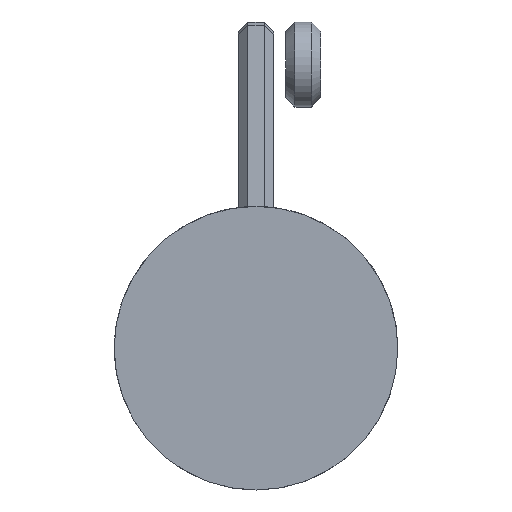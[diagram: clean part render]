
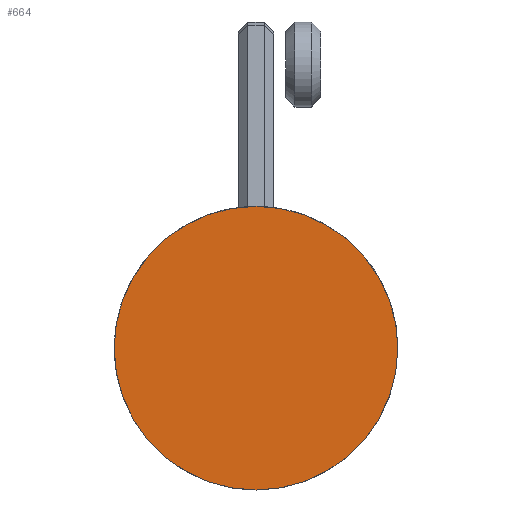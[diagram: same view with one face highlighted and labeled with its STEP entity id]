
A CAD part, front view. The second image highlights one B-rep face of the part: STEP entity #664.
In plain terms, the highlighted planar face has unit normal (0, -1, 0).
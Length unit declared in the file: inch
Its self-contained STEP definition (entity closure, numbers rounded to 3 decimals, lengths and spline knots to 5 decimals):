
#644=CARTESIAN_POINT('',(0.0,-3.5,3.0));
#645=VERTEX_POINT('',#644);
#646=CARTESIAN_POINT('',(0.0,-3.5,0.0));
#647=DIRECTION('',(0.0,1.0,0.0));
#648=DIRECTION('',(0.0,0.0,1.0));
#649=AXIS2_PLACEMENT_3D('',#646,#647,#648);
#650=CIRCLE('',#649,3.0);
#651=EDGE_CURVE('',#645,#645,#650,.T.);
#656=CARTESIAN_POINT('',(-3.0,-3.5,0.0));
#657=DIRECTION('',(0.0,-1.0,0.0));
#658=DIRECTION('',(0.0,0.0,-1.0));
#659=AXIS2_PLACEMENT_3D('',#656,#657,#658);
#660=PLANE('',#659);
#661=ORIENTED_EDGE('',*,*,#651,.F.);
#662=EDGE_LOOP('',(#661));
#663=FACE_OUTER_BOUND('',#662,.T.);
#664=ADVANCED_FACE('',(#663),#660,.T.);
